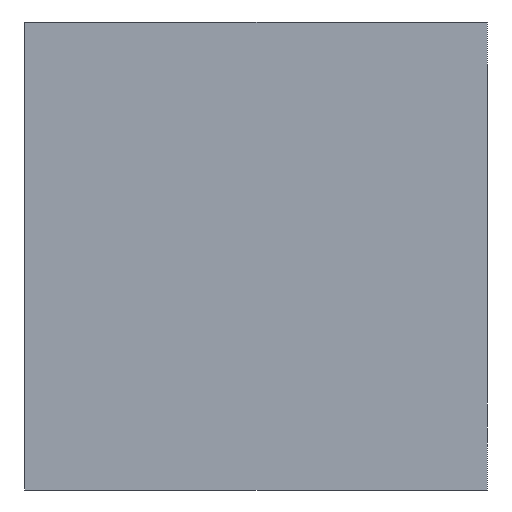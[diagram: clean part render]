
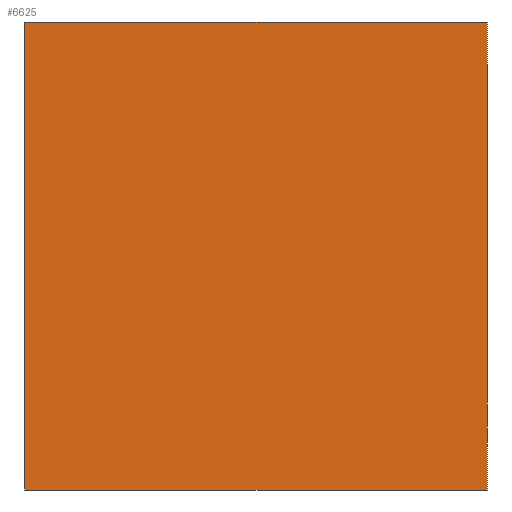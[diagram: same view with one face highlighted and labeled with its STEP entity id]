
A CAD part, left-side view. The second image highlights one B-rep face of the part: STEP entity #6625.
In plain terms, the highlighted planar face has unit normal (-1, 0, 0).
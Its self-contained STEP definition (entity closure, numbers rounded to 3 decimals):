
#577 = VECTOR ( 'NONE', #16636, 1000. ) ;
#679 = LINE ( 'NONE', #16651, #577 ) ;
#2987 = VERTEX_POINT ( 'NONE', #9168 ) ;
#2997 = CARTESIAN_POINT ( 'NONE',  ( 0., -19.75, -20. ) ) ;
#3223 = VERTEX_POINT ( 'NONE', #2997 ) ;
#3440 = VECTOR ( 'NONE', #14776, 1000. ) ;
#3510 = VERTEX_POINT ( 'NONE', #9062 ) ;
#3513 = LINE ( 'NONE', #14659, #3440 ) ;
#4156 = VECTOR ( 'NONE', #7239, 1000. ) ;
#4918 = VERTEX_POINT ( 'NONE', #15422 ) ;
#5436 = EDGE_CURVE ( 'NONE', #3223, #2987, #3513, .T. ) ;
#5663 = FACE_OUTER_BOUND ( 'NONE', #15758, .T. ) ;
#5927 = ORIENTED_EDGE ( 'NONE', *, *, #10019, .F. ) ;
#6625 = ADVANCED_FACE ( 'NONE', ( #5663 ), #16765, .T. ) ;
#7239 = DIRECTION ( 'NONE',  ( 0., -1., 0. ) ) ;
#7272 = CARTESIAN_POINT ( 'NONE',  ( 0., -19.75, 20. ) ) ;
#8834 = VECTOR ( 'NONE', #9698, 1000. ) ;
#9062 = CARTESIAN_POINT ( 'NONE',  ( 0., -19.75, 20. ) ) ;
#9168 = CARTESIAN_POINT ( 'NONE',  ( 0., 19.75, -20. ) ) ;
#9209 = LINE ( 'NONE', #10449, #8834 ) ;
#9443 = ORIENTED_EDGE ( 'NONE', *, *, #10195, .F. ) ;
#9698 = DIRECTION ( 'NONE',  ( 0., 0., -1. ) ) ;
#10019 = EDGE_CURVE ( 'NONE', #3510, #3223, #9209, .T. ) ;
#10195 = EDGE_CURVE ( 'NONE', #4918, #3510, #10294, .T. ) ;
#10294 = LINE ( 'NONE', #7272, #4156 ) ;
#10449 = CARTESIAN_POINT ( 'NONE',  ( 0., -19.75, 20. ) ) ;
#11797 = ORIENTED_EDGE ( 'NONE', *, *, #12416, .F. ) ;
#12074 = AXIS2_PLACEMENT_3D ( 'NONE', #14584, #14575, #14544 ) ;
#12416 = EDGE_CURVE ( 'NONE', #2987, #4918, #679, .T. ) ;
#13607 = ORIENTED_EDGE ( 'NONE', *, *, #5436, .F. ) ;
#14544 = DIRECTION ( 'NONE',  ( 0., 0., 1. ) ) ;
#14575 = DIRECTION ( 'NONE',  ( -1., 0., 0. ) ) ;
#14584 = CARTESIAN_POINT ( 'NONE',  ( 0., 19.75, -20. ) ) ;
#14659 = CARTESIAN_POINT ( 'NONE',  ( 0., -19.75, -20. ) ) ;
#14776 = DIRECTION ( 'NONE',  ( 0., 1., 0. ) ) ;
#15422 = CARTESIAN_POINT ( 'NONE',  ( 0., 19.75, 20. ) ) ;
#15758 = EDGE_LOOP ( 'NONE', ( #13607, #5927, #9443, #11797 ) ) ;
#16636 = DIRECTION ( 'NONE',  ( 0., 0., 1. ) ) ;
#16651 = CARTESIAN_POINT ( 'NONE',  ( 0., 19.75, 20. ) ) ;
#16765 = PLANE ( 'NONE',  #12074 ) ;
